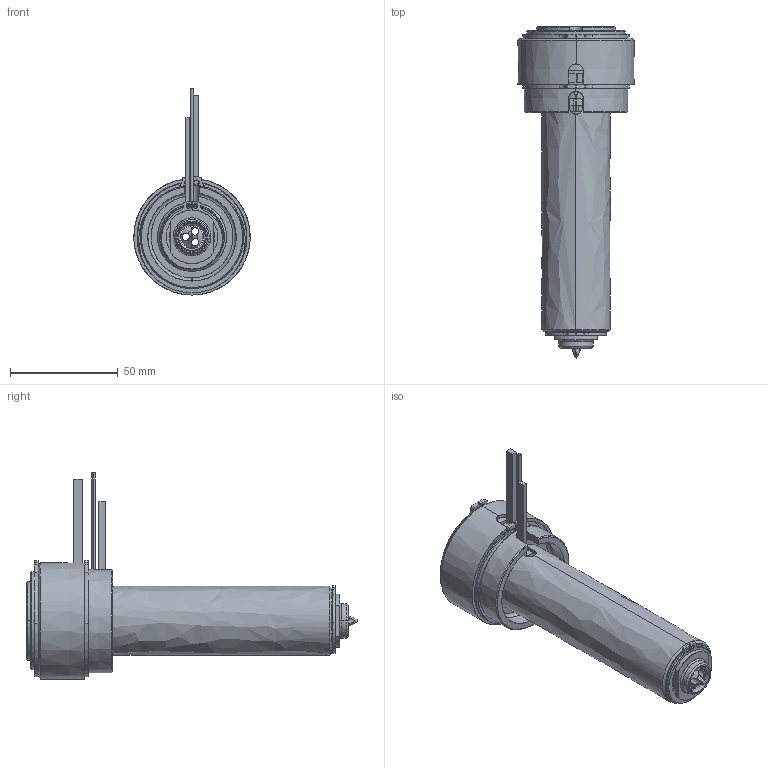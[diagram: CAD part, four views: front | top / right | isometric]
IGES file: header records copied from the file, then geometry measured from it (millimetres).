
Start section: SolidWorks IGES file using analytic representation for surfaces
Global section: file name: C:\Documents and Settings\ws-20\Desktop\TEM\UGEP5503-M-A-1 [Øf-0.80 ØC-13].IGS; native system: SolidWorks 2012; preprocessor: SolidWorks 2012; author: ws-20; date: 120427.081646; units: millimetre
Bounding box: 54 x 154.05 x 95.62 mm (x, y, z)
Surface area: 67563.7 mm2 (no closed solid volume)
Topology: 0 solids, 0 shells, 182 faces, 3598 edges, 3598 vertices
Faces by surface type: revolution 118, bspline 64
